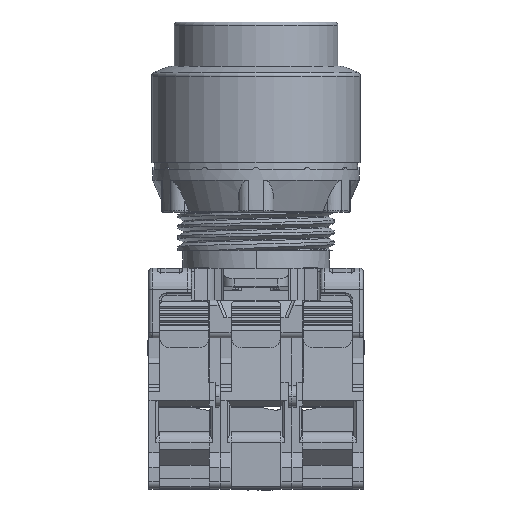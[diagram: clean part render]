
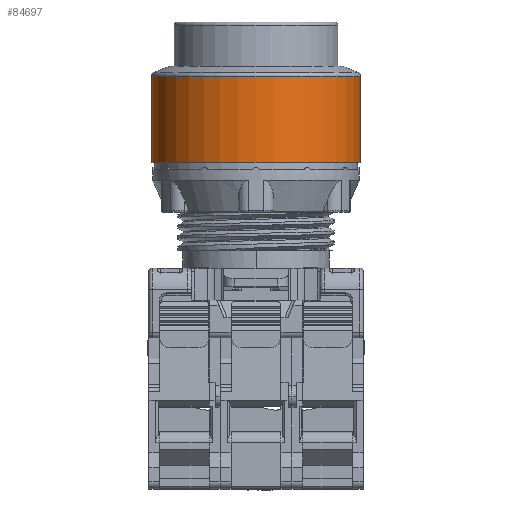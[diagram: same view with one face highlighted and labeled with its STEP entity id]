
A CAD part, top view. The second image highlights one B-rep face of the part: STEP entity #84697.
In plain terms, the highlighted cylindrical face has radius 14.65 mm (diameter 29.3 mm), a partial arc.
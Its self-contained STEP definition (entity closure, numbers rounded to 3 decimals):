
#1381 = DIRECTION ( 'NONE',  ( -1., 0., 0. ) ) ;
#4560 = CARTESIAN_POINT ( 'NONE',  ( 0., 0., 23.35 ) ) ;
#7600 = DIRECTION ( 'NONE',  ( 0., 0., 1. ) ) ;
#8935 = VECTOR ( 'NONE', #65409, 1000. ) ;
#9993 = CARTESIAN_POINT ( 'NONE',  ( 0., 0., 30.305 ) ) ;
#10713 = CIRCLE ( 'NONE', #98457, 14.65 ) ;
#12213 = CARTESIAN_POINT ( 'NONE',  ( 14.65, 0., 35.447 ) ) ;
#17553 = AXIS2_PLACEMENT_3D ( 'NONE', #9993, #99508, #1381 ) ;
#18215 = VERTEX_POINT ( 'NONE', #12213 ) ;
#23898 = LINE ( 'NONE', #89681, #8935 ) ;
#28284 = DIRECTION ( 'NONE',  ( 0., 0., 1. ) ) ;
#29001 = CARTESIAN_POINT ( 'NONE',  ( -14.65, 0., 23.35 ) ) ;
#33937 = VERTEX_POINT ( 'NONE', #55368 ) ;
#34161 = ORIENTED_EDGE ( 'NONE', *, *, #52223, .F. ) ;
#34219 = VECTOR ( 'NONE', #97919, 1000. ) ;
#40511 = DIRECTION ( 'NONE',  ( 1., 0., 0. ) ) ;
#43485 = CARTESIAN_POINT ( 'NONE',  ( 14.65, 0., 23.35 ) ) ;
#47248 = CARTESIAN_POINT ( 'NONE',  ( 14.65, 0., 35.447 ) ) ;
#47486 = ORIENTED_EDGE ( 'NONE', *, *, #57075, .T. ) ;
#52223 = EDGE_CURVE ( 'NONE', #18215, #33937, #85324, .T. ) ;
#55368 = CARTESIAN_POINT ( 'NONE',  ( -14.65, 0., 35.447 ) ) ;
#55940 = EDGE_LOOP ( 'NONE', ( #93725, #67144, #34161, #47486 ) ) ;
#57075 = EDGE_CURVE ( 'NONE', #18215, #60528, #89300, .T. ) ;
#60528 = VERTEX_POINT ( 'NONE', #43485 ) ;
#65409 = DIRECTION ( 'NONE',  ( 0., 0., 1. ) ) ;
#67144 = ORIENTED_EDGE ( 'NONE', *, *, #85040, .T. ) ;
#67156 = FACE_OUTER_BOUND ( 'NONE', #55940, .T. ) ;
#84697 = ADVANCED_FACE ( 'NONE', ( #67156 ), #90882, .T. ) ;
#84822 = EDGE_CURVE ( 'NONE', #60528, #94830, #10713, .T. ) ;
#85040 = EDGE_CURVE ( 'NONE', #94830, #33937, #23898, .T. ) ;
#85324 = CIRCLE ( 'NONE', #99093, 14.65 ) ;
#88508 = CARTESIAN_POINT ( 'NONE',  ( 0., 0., 35.447 ) ) ;
#89300 = LINE ( 'NONE', #47248, #34219 ) ;
#89681 = CARTESIAN_POINT ( 'NONE',  ( -14.65, 0., 23.35 ) ) ;
#90882 = CYLINDRICAL_SURFACE ( 'NONE', #17553, 14.65 ) ;
#93725 = ORIENTED_EDGE ( 'NONE', *, *, #84822, .T. ) ;
#94067 = DIRECTION ( 'NONE',  ( 1., 0., 0. ) ) ;
#94830 = VERTEX_POINT ( 'NONE', #29001 ) ;
#97919 = DIRECTION ( 'NONE',  ( 0., 0., -1. ) ) ;
#98457 = AXIS2_PLACEMENT_3D ( 'NONE', #4560, #28284, #94067 ) ;
#99093 = AXIS2_PLACEMENT_3D ( 'NONE', #88508, #7600, #40511 ) ;
#99508 = DIRECTION ( 'NONE',  ( 0., 0., -1. ) ) ;
